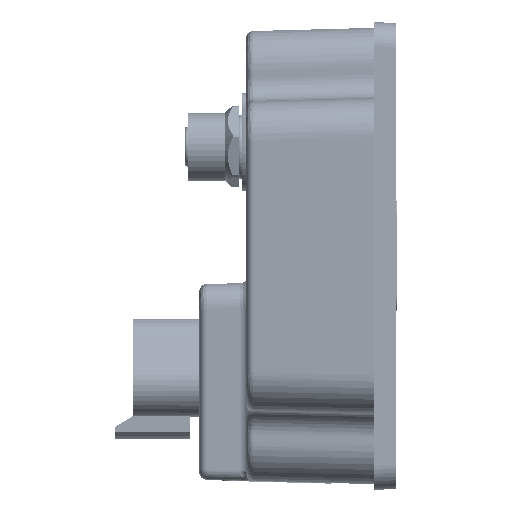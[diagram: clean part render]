
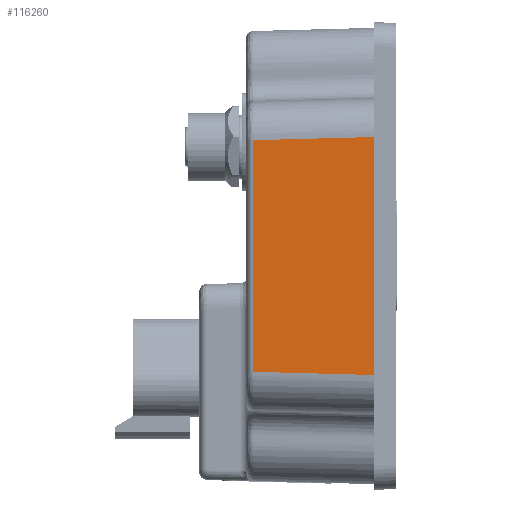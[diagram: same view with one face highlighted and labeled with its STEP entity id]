
A CAD part, left-side view. The second image highlights one B-rep face of the part: STEP entity #116260.
In plain terms, the highlighted planar face has unit normal (-1, 0.026, 0).
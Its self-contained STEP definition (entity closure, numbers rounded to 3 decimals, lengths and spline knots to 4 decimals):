
#15993=LINE('',#199654,#25983);
#16762=LINE('',#209232,#26752);
#16763=LINE('',#209235,#26753);
#16764=LINE('',#209236,#26754);
#25983=VECTOR('',#143675,0.3937);
#26752=VECTOR('',#148004,0.3937);
#26753=VECTOR('',#148007,0.3937);
#26754=VECTOR('',#148008,0.3937);
#32844=FACE_OUTER_BOUND('',#39500,.T.);
#39500=EDGE_LOOP('',(#99628,#99629,#99630,#99631));
#51477=VERTEX_POINT('',#199651);
#51478=VERTEX_POINT('',#199653);
#52779=VERTEX_POINT('',#209230);
#52780=VERTEX_POINT('',#209234);
#66580=EDGE_CURVE('',#51477,#51478,#15993,.T.);
#68623=EDGE_CURVE('',#51478,#52779,#16762,.T.);
#68624=EDGE_CURVE('',#52779,#52780,#16763,.T.);
#68625=EDGE_CURVE('',#52780,#51477,#16764,.T.);
#99628=ORIENTED_EDGE('',*,*,#68624,.F.);
#99629=ORIENTED_EDGE('',*,*,#68623,.F.);
#99630=ORIENTED_EDGE('',*,*,#66580,.F.);
#99631=ORIENTED_EDGE('',*,*,#68625,.F.);
#104964=PLANE('',#123767);
#116260=ADVANCED_FACE('',(#32844),#104964,.T.);
#123767=AXIS2_PLACEMENT_3D('',#209233,#148005,#148006);
#143675=DIRECTION('',(0.,0.,-1.));
#148004=DIRECTION('',(0.026,0.999,0.026));
#148005=DIRECTION('center_axis',(-1.,0.026,
0.));
#148006=DIRECTION('ref_axis',(0.,0.,
1.));
#148007=DIRECTION('',(0.,0.,1.));
#148008=DIRECTION('',(-0.026,-0.999,0.026));
#199651=CARTESIAN_POINT('',(-3.5781,-0.5605,0.9532));
#199653=CARTESIAN_POINT('',(-3.5781,-0.5605,-0.9532));
#199654=CARTESIAN_POINT('',(-3.5781,-0.5605,0.6328));
#209230=CARTESIAN_POINT('',(-3.5528,0.4069,-0.9279));
#209232=CARTESIAN_POINT('',(-3.5775,-0.5356,-0.9526));
#209233=CARTESIAN_POINT('Origin',(-3.5781,-0.5605,
1.2656));
#209234=CARTESIAN_POINT('',(-3.5528,0.4069,0.9279));
#209235=CARTESIAN_POINT('',(-3.5528,0.4069,0.6228));
#209236=CARTESIAN_POINT('',(-3.5781,-0.5607,0.9532));
